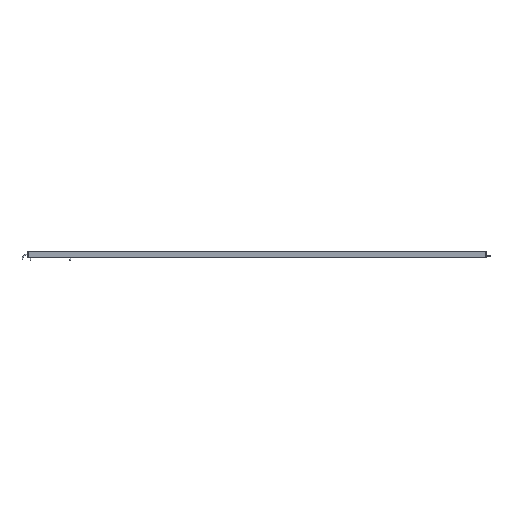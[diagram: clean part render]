
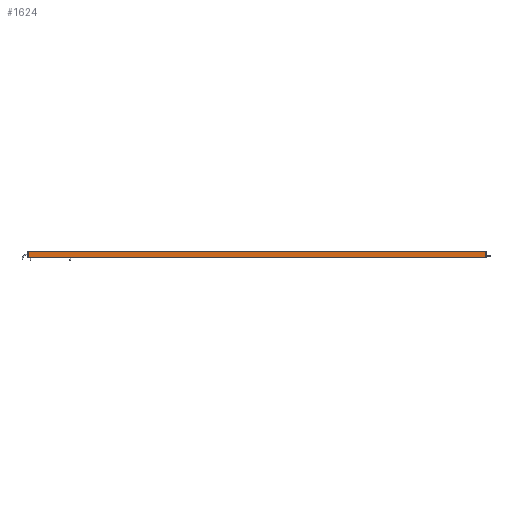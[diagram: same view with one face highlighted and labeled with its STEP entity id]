
A CAD part, left-side view. The second image highlights one B-rep face of the part: STEP entity #1624.
In plain terms, the highlighted planar face has unit normal (-1, 0, 0).
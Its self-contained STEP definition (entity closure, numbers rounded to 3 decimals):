
#488 = LINE ( 'NONE', #9896, #18670 ) ;
#845 = ORIENTED_EDGE ( 'NONE', *, *, #12997, .T. ) ;
#1547 = VERTEX_POINT ( 'NONE', #7826 ) ;
#1624 = ADVANCED_FACE ( 'NONE', ( #16566 ), #5744, .T. ) ;
#2432 = CARTESIAN_POINT ( 'NONE',  ( -9., 2305., 0.5 ) ) ;
#2617 = VERTEX_POINT ( 'NONE', #5603 ) ;
#2818 = ORIENTED_EDGE ( 'NONE', *, *, #4272, .F. ) ;
#2912 = CARTESIAN_POINT ( 'NONE',  ( -9., 0., 28.5 ) ) ;
#4272 = EDGE_CURVE ( 'NONE', #12030, #1547, #19360, .T. ) ;
#5097 = DIRECTION ( 'NONE',  ( 0., -1., 0. ) ) ;
#5603 = CARTESIAN_POINT ( 'NONE',  ( -9., 2305., 28.5 ) ) ;
#5744 = PLANE ( 'NONE',  #7562 ) ;
#6134 = DIRECTION ( 'NONE',  ( 0., -1., 0. ) ) ;
#6690 = VECTOR ( 'NONE', #18773, 1000. ) ;
#7562 = AXIS2_PLACEMENT_3D ( 'NONE', #14139, #20527, #6134 ) ;
#7826 = CARTESIAN_POINT ( 'NONE',  ( -9., 0., 0.5 ) ) ;
#8720 = CARTESIAN_POINT ( 'NONE',  ( -9., 0., 28.5 ) ) ;
#9896 = CARTESIAN_POINT ( 'NONE',  ( -9., 2305., 0.5 ) ) ;
#10421 = EDGE_CURVE ( 'NONE', #15246, #1547, #488, .T. ) ;
#11943 = LINE ( 'NONE', #14113, #15669 ) ;
#12030 = VERTEX_POINT ( 'NONE', #8720 ) ;
#12997 = EDGE_CURVE ( 'NONE', #2617, #15246, #11943, .T. ) ;
#13459 = EDGE_LOOP ( 'NONE', ( #2818, #14081, #845, #17250 ) ) ;
#14081 = ORIENTED_EDGE ( 'NONE', *, *, #17584, .F. ) ;
#14113 = CARTESIAN_POINT ( 'NONE',  ( -9., 2305., 28.5 ) ) ;
#14139 = CARTESIAN_POINT ( 'NONE',  ( -9., 2305., 28.5 ) ) ;
#14650 = DIRECTION ( 'NONE',  ( 0., -1., 0. ) ) ;
#15246 = VERTEX_POINT ( 'NONE', #2432 ) ;
#15349 = VECTOR ( 'NONE', #14650, 1000. ) ;
#15669 = VECTOR ( 'NONE', #19053, 1000. ) ;
#16566 = FACE_OUTER_BOUND ( 'NONE', #13459, .T. ) ;
#17250 = ORIENTED_EDGE ( 'NONE', *, *, #10421, .T. ) ;
#17541 = LINE ( 'NONE', #17842, #15349 ) ;
#17584 = EDGE_CURVE ( 'NONE', #2617, #12030, #17541, .T. ) ;
#17842 = CARTESIAN_POINT ( 'NONE',  ( -9., 2305., 28.5 ) ) ;
#18670 = VECTOR ( 'NONE', #5097, 1000. ) ;
#18773 = DIRECTION ( 'NONE',  ( 0., 0., -1. ) ) ;
#19053 = DIRECTION ( 'NONE',  ( 0., 0., -1. ) ) ;
#19360 = LINE ( 'NONE', #2912, #6690 ) ;
#20527 = DIRECTION ( 'NONE',  ( -1., 0., 0. ) ) ;
